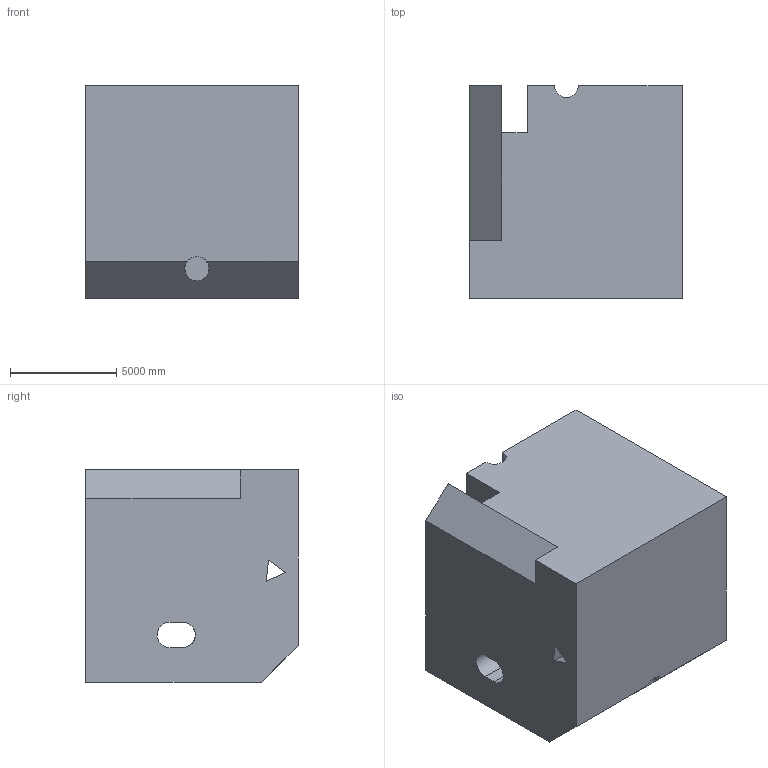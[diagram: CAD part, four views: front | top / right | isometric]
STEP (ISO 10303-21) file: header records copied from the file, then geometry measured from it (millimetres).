
FILE_DESCRIPTION (( 'STEP AP203' ), '1' );
FILE_NAME ('184.STEP', '2022-09-06T15:24:56', ( 'user' ), ( '' ), 'SwSTEP 2.0', 'SolidWorks 2021', '' );
FILE_SCHEMA (( 'CONFIG_CONTROL_DESIGN' ));
Length unit declared in the file: centimetre
Products named in the file (1): 184
Bounding box: 10000 x 10000 x 10000 mm (x, y, z)
Volume: 906596061995.8 mm3; surface area: 751943682.7 mm2
Topology: 1 solids, 1 shells, 34 faces, 95 edges, 63 vertices
Faces by surface type: plane 25, cylinder 9
Entity records: 1462 total; most frequent: CARTESIAN_POINT 497, ORIENTED_EDGE 190, DIRECTION 173, EDGE_CURVE 95, VECTOR 71, LINE 71, VERTEX_POINT 63, AXIS2_PLACEMENT_3D 51
